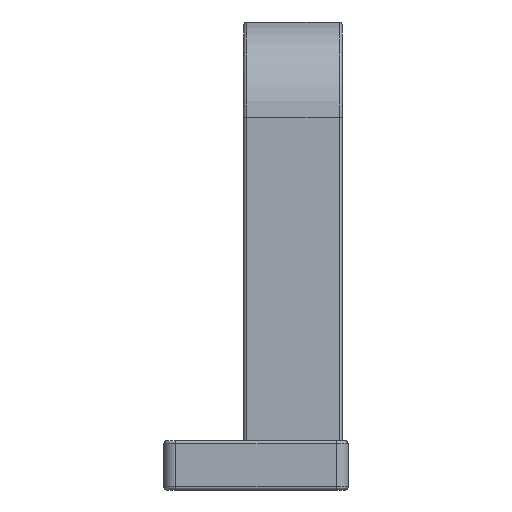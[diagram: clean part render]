
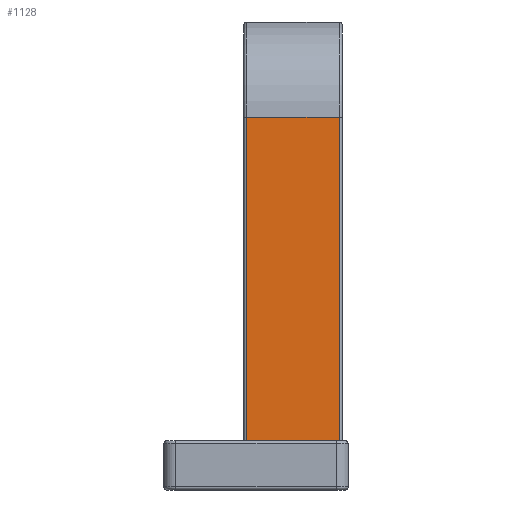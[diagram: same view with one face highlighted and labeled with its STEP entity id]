
A CAD part, left-side view. The second image highlights one B-rep face of the part: STEP entity #1128.
In plain terms, the highlighted planar face has unit normal (-1, 0, 0).
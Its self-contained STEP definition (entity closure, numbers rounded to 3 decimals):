
#110=FACE_OUTER_BOUND('',#184,.T.);
#184=EDGE_LOOP('',(#925,#926,#927,#928));
#357=LINE('',#1953,#439);
#358=LINE('',#1955,#440);
#359=LINE('',#1957,#441);
#360=LINE('',#1958,#442);
#439=VECTOR('',#1578,10.);
#440=VECTOR('',#1579,10.);
#441=VECTOR('',#1580,10.);
#442=VECTOR('',#1581,10.);
#531=VERTEX_POINT('',#1951);
#532=VERTEX_POINT('',#1952);
#533=VERTEX_POINT('',#1954);
#534=VERTEX_POINT('',#1956);
#669=EDGE_CURVE('',#531,#532,#357,.T.);
#670=EDGE_CURVE('',#533,#531,#358,.T.);
#671=EDGE_CURVE('',#533,#534,#359,.T.);
#672=EDGE_CURVE('',#532,#534,#360,.T.);
#925=ORIENTED_EDGE('',*,*,#669,.F.);
#926=ORIENTED_EDGE('',*,*,#670,.F.);
#927=ORIENTED_EDGE('',*,*,#671,.T.);
#928=ORIENTED_EDGE('',*,*,#672,.F.);
#1078=PLANE('',#1263);
#1128=ADVANCED_FACE('',(#110),#1078,.F.);
#1263=AXIS2_PLACEMENT_3D('',#1950,#1576,#1577);
#1576=DIRECTION('center_axis',(1.,0.,0.));
#1577=DIRECTION('ref_axis',(0.,0.,1.));
#1578=DIRECTION('',(0.,1.,0.));
#1579=DIRECTION('',(0.,0.,-1.));
#1580=DIRECTION('',(0.,1.,0.));
#1581=DIRECTION('',(0.,0.,1.));
#1950=CARTESIAN_POINT('Origin',(-549.,-44.,42.));
#1951=CARTESIAN_POINT('',(-549.,-43.5,14.));
#1952=CARTESIAN_POINT('',(-549.,-28.5,14.));
#1953=CARTESIAN_POINT('',(-549.,-35.6,14.));
#1954=CARTESIAN_POINT('',(-549.,-43.5,66.5));
#1955=CARTESIAN_POINT('',(-549.,-43.5,66.5));
#1956=CARTESIAN_POINT('',(-549.,-28.5,66.5));
#1957=CARTESIAN_POINT('',(-549.,-43.5,66.5));
#1958=CARTESIAN_POINT('',(-549.,-28.5,8.));
